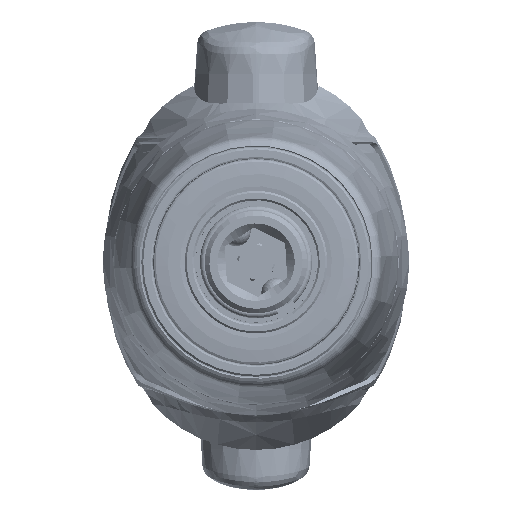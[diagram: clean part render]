
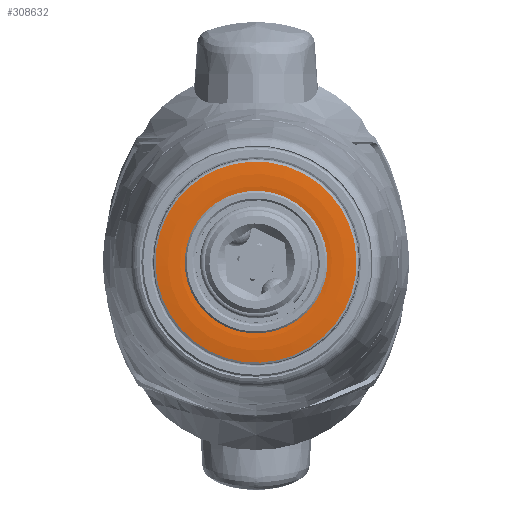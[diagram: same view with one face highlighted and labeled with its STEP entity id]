
A CAD part, front view. The second image highlights one B-rep face of the part: STEP entity #308632.
In plain terms, the highlighted toroidal (fillet/blend) face has major radius 8.653 mm and minor radius 11.694 mm.
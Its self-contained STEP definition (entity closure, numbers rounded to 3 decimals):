
#1900 = DIRECTION ( 'NONE',  ( 0., 0., 1. ) ) ;
#28007 = DIRECTION ( 'NONE',  ( 1., 0., 0. ) ) ;
#35768 = CIRCLE ( 'NONE', #278173, 10.565 ) ;
#54408 = DIRECTION ( 'NONE',  ( 0., 0., 1. ) ) ;
#58398 = EDGE_LOOP ( 'NONE', ( #324209 ) ) ;
#116629 = FACE_OUTER_BOUND ( 'NONE', #273292, .T. ) ;
#118223 = ORIENTED_EDGE ( 'NONE', *, *, #267555, .T. ) ;
#135508 = CARTESIAN_POINT ( 'NONE',  ( 0., 0., -1.843 ) ) ;
#185865 = TOROIDAL_SURFACE ( 'NONE', #215475, 8.653, 11.694 ) ;
#195132 = DIRECTION ( 'NONE',  ( 1., 0., 0. ) ) ;
#201802 = DIRECTION ( 'NONE',  ( 1., 0., 0. ) ) ;
#215475 = AXIS2_PLACEMENT_3D ( 'NONE', #342570, #1900, #201802 ) ;
#224003 = CARTESIAN_POINT ( 'NONE',  ( 6.696, 0., -1.835 ) ) ;
#267555 = EDGE_CURVE ( 'NONE', #364799, #364799, #274699, .T. ) ;
#273292 = EDGE_LOOP ( 'NONE', ( #118223 ) ) ;
#274699 = CIRCLE ( 'NONE', #333723, 6.696 ) ;
#278173 = AXIS2_PLACEMENT_3D ( 'NONE', #135508, #365104, #28007 ) ;
#308632 = ADVANCED_FACE ( 'NONE', ( #116629, #311113 ), #185865, .T. ) ;
#311113 = FACE_OUTER_BOUND ( 'NONE', #58398, .T. ) ;
#324209 = ORIENTED_EDGE ( 'NONE', *, *, #363095, .T. ) ;
#325183 = VERTEX_POINT ( 'NONE', #354862 ) ;
#333723 = AXIS2_PLACEMENT_3D ( 'NONE', #363735, #54408, #195132 ) ;
#342570 = CARTESIAN_POINT ( 'NONE',  ( 0., 0., 9.694 ) ) ;
#354862 = CARTESIAN_POINT ( 'NONE',  ( 10.565, 0., -1.843 ) ) ;
#363095 = EDGE_CURVE ( 'NONE', #325183, #325183, #35768, .T. ) ;
#363735 = CARTESIAN_POINT ( 'NONE',  ( 0., 0., -1.835 ) ) ;
#364799 = VERTEX_POINT ( 'NONE', #224003 ) ;
#365104 = DIRECTION ( 'NONE',  ( 0., 0., -1. ) ) ;
